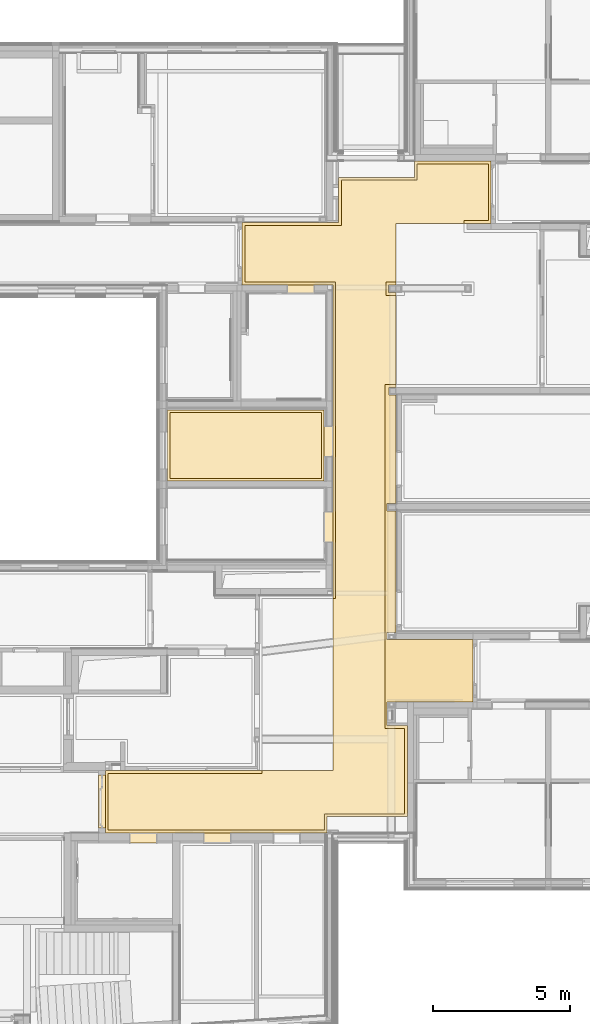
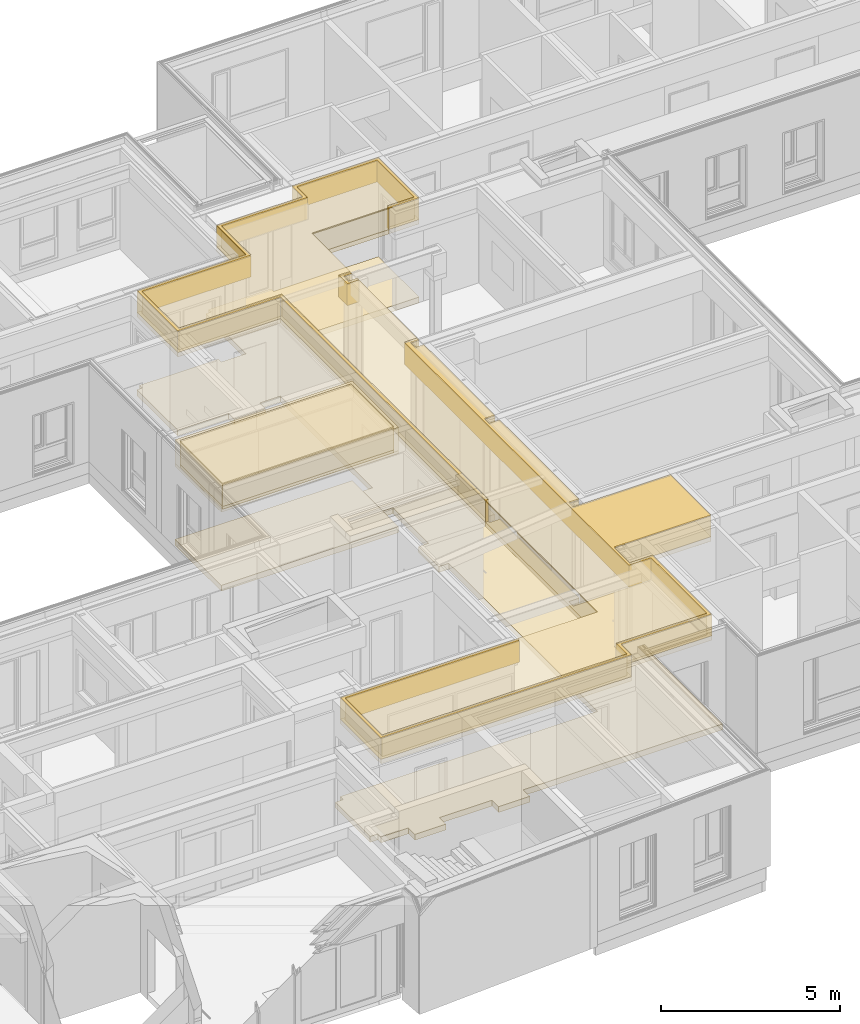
# One storey, part 181 of 207: 18 coverings.
"""IFC4 building model written with IfcOpenShell, lengths in metres."""

from ifc_helpers import new_model, entity, si_unit, converted_unit, derived_unit, frame, frame_2d, origin, origin_with_axes, place, context, subcontext, project, spatial, polyline, rectangle, outline, extrude, material, layer, layer_set, layer_usage, element, save


model = new_model("IFC4")

# Units and contexts
model_context = context("Model", 3, precision=1e-05, world=origin())
body_context = subcontext(model_context, "Body", "Model", "MODEL_VIEW")
ifc_project = project(units=[si_unit("LENGTHUNIT", "METRE"), si_unit("AREAUNIT", "SQUARE_METRE"), si_unit("VOLUMEUNIT", "CUBIC_METRE"), si_unit("MASSUNIT", "GRAM", prefix="KILO"), converted_unit("PLANEANGLEUNIT", "DEGREE", entity("IfcPlaneAngleMeasure", 0.0174532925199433), si_unit("PLANEANGLEUNIT", "RADIAN"), dimensions=[0, 0, 0, 0, 0, 0, 0]), derived_unit("THERMALTRANSMITTANCEUNIT", [(si_unit("POWERUNIT", "WATT"), 1), (si_unit("THERMODYNAMICTEMPERATUREUNIT", "KELVIN"), -1), (si_unit("LENGTHUNIT", "METRE"), -2)]), derived_unit("VOLUMETRICFLOWRATEUNIT", [(si_unit("LENGTHUNIT", "METRE"), 3), (converted_unit("TIMEUNIT", "hour", entity("IfcTimeMeasure", 3600.0), si_unit("TIMEUNIT", "SECOND"), dimensions=[0, 0, 1, 0, 0, 0, 0]), -1), (si_unit("LENGTHUNIT", "METRE"), -1)])], contexts=[model_context])

# Site, building, storey, space
site_placement = place(None, origin())
site = spatial("IfcSite", under=ifc_project, at=site_placement, Name="Psychiatrie Neubau Wunstorf", CompositionType="ELEMENT")
building_placement = place(site_placement, origin())
building = spatial("IfcBuilding", under=site, at=building_placement, Name="Neubau H2 Stationsgebäude", CompositionType="ELEMENT")
storey_placement = place(building_placement, frame((0.0, 0.0, -0.2)))
storey = spatial("IfcBuildingStorey", under=building, at=storey_placement, Name="H2 Ebene 0", CompositionType="ELEMENT", Elevation=-0.2)
space_1_placement = place(storey_placement, frame((59.7893138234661, 0.53600244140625, 0.0)))
space_1 = spatial("IfcSpace", under=storey, at=space_1_placement, Name="WUN-H2-E00-F07", CompositionType="ELEMENT")

# Coverings
ifc_material_1 = material(Name="Ku1")
ifc_layer_1 = layer(ifc_material_1, 0.2)
ifc_layer_set_1 = layer_set([ifc_layer_1])
ifc_layer_usage_1 = layer_usage(ifc_layer_set_1, "AXIS3", "POSITIVE", 0.0)
covering_1_placement = place(space_1_placement, frame((-0.249999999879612, -0.364999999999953, 0.0)))
element("IfcCovering", 1, at=covering_1_placement, inside=space_1, material=ifc_layer_usage_1, Name="PVC Bahnenware Holzoptik", PredefinedType="FLOORING", context=body_context, shape_type="SweptSolid", body=[
    extrude(rectangle(XDim=0.144999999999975, YDim=2.01300094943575, at=frame_2d((1.00650047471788, -0.0724999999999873), x_axis=(0.0, -1.0))), frame((8.9516861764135, 25.0880012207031, 0.0), z_axis=(0.0, 0.0, 1.0), x_axis=(1.0, 0.0, 0.0)), (0.0, 0.0, 1.0), 0.2),
    extrude(rectangle(XDim=0.3215, YDim=1.135, at=frame_2d((0.16075, 0.5675), x_axis=(1.0, 0.0))), frame((8.2566861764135, 14.1189975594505, 0.0), z_axis=(0.0, 0.0, 1.0), x_axis=(1.0, 0.0, 0.0)), (0.0, 0.0, 1.0), 0.2),
    extrude(rectangle(XDim=0.3215, YDim=1.135, at=frame_2d((0.16075, 0.5675), x_axis=(1.0, 0.0))), frame((8.2566861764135, 10.9875692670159, 0.0), z_axis=(0.0, 0.0, 1.0), x_axis=(1.0, 0.0, 0.0)), (0.0, 0.0, 1.0), 0.2),
    extrude(rectangle(XDim=0.156000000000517, YDim=2.55, at=frame_2d((1.275, -0.0780000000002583), x_axis=(0.0, -1.0))), frame((5.4201861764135, 22.8489975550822, 0.0), z_axis=(0.0, 0.0, 1.0), x_axis=(1.0, 0.0, 0.0)), (0.0, 0.0, 1.0), 0.2),
    extrude(rectangle(XDim=0.365, YDim=1.01, at=frame_2d((-0.505, 0.1825), x_axis=(0.0, 1.0))), frame((2.14491174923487, 0.0, 0.0), z_axis=(0.0, 0.0, 1.0), x_axis=(1.0, 0.0, 0.0)), (0.0, 0.0, 1.0), 0.2),
    extrude(rectangle(XDim=0.25, YDim=1.9416311, at=frame_2d((0.125, 0.97081555), x_axis=(1.0, 0.0))), frame((0.0, 0.534992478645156, 0.0), z_axis=(0.0, 0.0, 1.0), x_axis=(1.0, 0.0, 0.0)), (0.0, 0.0, 1.0), 0.2),
    extrude(rectangle(XDim=0.3215, YDim=1.01, at=frame_2d((-0.505, 0.16075), x_axis=(0.0, 1.0))), frame((7.9061861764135, 20.0934957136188, 0.0), z_axis=(0.0, 0.0, 1.0), x_axis=(1.0, 0.0, 0.0)), (0.0, 0.0, 1.0), 0.2),
    extrude(rectangle(XDim=0.365, YDim=1.01, at=frame_2d((-0.505, 0.1825), x_axis=(0.0, 1.0))), frame((4.85491174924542, 0.0, 0.0), z_axis=(0.0, 0.0, 1.0), x_axis=(1.0, 0.0, 0.0)), (0.0, 0.0, 1.0), 0.2),
    extrude(outline(polyline([(8.32818617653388, 20.0499957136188), (8.32818617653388, 2.2814972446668), (0.319314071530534, 2.28162623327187), (0.31927227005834, 2.28156728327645), (0.0, 2.28163151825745), (0.0, 0.0), (11.0461861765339, 0.0), (11.0461861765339, 3.9214975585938), (10.3096811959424, 3.92149755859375), (10.3096811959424, 4.79649755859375), (13.4506861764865, 4.79649755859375), (13.4506861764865, 7.07149755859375), (10.3096811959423, 7.07149737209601), (10.3096811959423, 7.32249737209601), (10.6406861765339, 7.3224975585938), (10.6406861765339, 11.7780570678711), (10.3096861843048, 11.7780570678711), (10.3096861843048, 12.0500570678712), (10.6406861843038, 12.0500570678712), (10.6406861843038, 16.0244975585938), (10.3746800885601, 16.0244975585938), (10.3746800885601, 16.2964975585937), (10.6406861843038, 16.2964975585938), (10.6406886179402, 19.7679955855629), (10.3646941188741, 19.7679955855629), (10.3646941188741, 20.0499926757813), (10.6406861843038, 20.0499926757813), (10.6406861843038, 22.2999975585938), (14.1106861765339, 22.2999975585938), (14.1106861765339, 24.5814975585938), (11.3216861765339, 24.5814975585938), (11.3216861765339, 24.5780012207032), (8.53168617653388, 24.5780012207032), (8.53168617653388, 22.3279975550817), (5.00418617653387, 22.3279975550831), (5.00418617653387, 20.0499955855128), (8.32818617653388, 20.0499957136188)])), frame((0.249999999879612, 0.364999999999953, 0.0), z_axis=(0.0, 0.0, 1.0), x_axis=(1.0, 0.0, 0.0)), (0.0, 0.0, 1.0), 0.2),
])
ifc_material_2 = material()
ifc_layer_2 = layer(ifc_material_2, 0.036)
ifc_layer_set_2 = layer_set([ifc_layer_2])
ifc_layer_usage_2 = layer_usage(ifc_layer_set_2, "AXIS3", "POSITIVE", 0.0)
covering_2_placement = place(space_1_placement, frame((0.0999416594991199, 0.0998389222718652, 3.6)))
element("IfcCovering", 2, at=covering_2_placement, inside=space_1, material=ifc_layer_usage_2, Name="Gipsfaserplatten 2-lagig (BSK)", PredefinedType="CEILING", context=body_context, shape_type="SweptSolid", body=[
    extrude(outline(polyline([(10.5407445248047, 4.3280085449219), (10.164752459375, 4.3280085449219), (10.164752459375, 4.81000563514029), (10.540746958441, 4.81000563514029), (10.540746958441, 8.08150366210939), (10.1247445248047, 8.08150366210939), (10.1247445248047, 20.6565036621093), (10.8462445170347, 20.6565036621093), (10.8462445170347, 23.7790038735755), (7.91074600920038, 23.7790038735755), (7.91074600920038, 24.3781381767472), (5.83406212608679e-05, 24.3781622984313), (0.0, 22.2965208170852), (5.63573702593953, 22.296496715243), (5.63574085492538, 22.1965039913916), (8.22824451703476, 22.1965039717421), (8.22824451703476, 15.9090036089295), (8.32824451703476, 15.9090036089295), (8.32824451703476, 4.3280055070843), (5.00424451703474, 4.32800559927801), (5.00424451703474, 2.25000366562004), (8.53174451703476, 2.25000366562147), (8.53174451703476, 0.6), (11.3107445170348, 0.6), (11.3107445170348, 0.0), (13.9107445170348, 0.0), (13.9107445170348, 2.07800366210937), (13.0307415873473, 2.07800366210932), (13.0307415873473, 2.17800366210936), (10.5407445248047, 2.17800366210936), (10.5407445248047, 4.3280085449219)])), frame((0.0, 24.3781622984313, 0.0), z_axis=(0.0, 0.0, -1.0), x_axis=(1.0, 0.0, 0.0)), (0.0, 0.0, 1.0), 0.036),
])
ifc_material_3 = material(Name="Installationshöhe")
ifc_layer_3 = layer(ifc_material_3, 0.714)
ifc_layer_set_3 = layer_set([ifc_layer_3])
ifc_layer_usage_3 = layer_usage(ifc_layer_set_3, "AXIS3", "POSITIVE", 0.0)
covering_3_placement = place(space_1_placement, frame((0.0999416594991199, 0.0998389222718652, 3.564)))
element("IfcCovering", 3, at=covering_3_placement, inside=space_1, material=ifc_layer_usage_3, Name="Gipsfaserplatten 2-lagig (BSK)", PredefinedType="CEILING", context=body_context, shape_type="SweptSolid", body=[
    extrude(outline(polyline([(10.5407445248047, 4.3280085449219), (10.164752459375, 4.3280085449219), (10.164752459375, 4.81000563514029), (10.540746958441, 4.81000563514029), (10.540746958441, 8.08150366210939), (10.1247445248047, 8.08150366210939), (10.1247445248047, 20.6565036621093), (10.8462445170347, 20.6565036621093), (10.8462445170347, 23.7790038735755), (7.91074600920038, 23.7790038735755), (7.91074600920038, 24.3781381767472), (5.83406212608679e-05, 24.3781622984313), (0.0, 22.2965208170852), (5.63573702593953, 22.296496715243), (5.63574085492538, 22.1965039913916), (8.22824451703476, 22.1965039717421), (8.22824451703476, 15.9090036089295), (8.32824451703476, 15.9090036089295), (8.32824451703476, 4.3280055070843), (5.00424451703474, 4.32800559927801), (5.00424451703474, 2.25000366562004), (8.53174451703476, 2.25000366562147), (8.53174451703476, 0.6), (11.3107445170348, 0.6), (11.3107445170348, 0.0), (13.9107445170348, 0.0), (13.9107445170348, 2.07800366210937), (13.0307415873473, 2.07800366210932), (13.0307415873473, 2.17800366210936), (10.5407445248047, 2.17800366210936), (10.5407445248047, 4.3280085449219)])), frame((0.0, 24.3781622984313, 0.0), z_axis=(0.0, 0.0, -1.0), x_axis=(1.0, 0.0, 0.0)), (0.0, 0.0, 1.0), 0.714),
])
ifc_material_4 = material(Name="Aa")
ifc_layer_4 = layer(ifc_material_4, 0.15)
ifc_layer_set_4 = layer_set([ifc_layer_4])
ifc_layer_usage_4 = layer_usage(ifc_layer_set_4, "AXIS3", "POSITIVE", 0.0)
covering_4_placement = place(space_1_placement, frame((0.0999416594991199, 0.0998389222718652, 2.85)))
element("IfcCovering", 4, at=covering_4_placement, inside=space_1, material=ifc_layer_usage_4, Name="Gipsfaserplatten 2-lagig (BSK)", PredefinedType="CEILING", context=body_context, shape_type="SweptSolid", body=[
    extrude(outline(polyline([(10.5407445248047, 4.3280085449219), (10.164752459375, 4.3280085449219), (10.164752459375, 4.81000563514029), (10.540746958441, 4.81000563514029), (10.540746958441, 8.08150366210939), (10.1247445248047, 8.08150366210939), (10.1247445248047, 20.6565036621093), (10.8462445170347, 20.6565036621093), (10.8462445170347, 23.7790038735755), (7.91074600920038, 23.7790038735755), (7.91074600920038, 24.3781381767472), (5.83406212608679e-05, 24.3781622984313), (0.0, 22.2965208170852), (5.63573702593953, 22.296496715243), (5.63574085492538, 22.1965039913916), (8.22824451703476, 22.1965039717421), (8.22824451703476, 15.9090036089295), (8.32824451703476, 15.9090036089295), (8.32824451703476, 4.3280055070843), (5.00424451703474, 4.32800559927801), (5.00424451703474, 2.25000366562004), (8.53174451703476, 2.25000366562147), (8.53174451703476, 0.6), (11.3107445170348, 0.6), (11.3107445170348, 0.0), (13.9107445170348, 0.0), (13.9107445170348, 2.07800366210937), (13.0307415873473, 2.07800366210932), (13.0307415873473, 2.17800366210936), (10.5407445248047, 2.17800366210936), (10.5407445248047, 4.3280085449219)])), frame((0.0, 24.3781622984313, 0.0), z_axis=(0.0, 0.0, -1.0), x_axis=(1.0, 0.0, 0.0)), (0.0, 0.0, 1.0), 0.15),
])
ifc_material_5 = material(Name="D1")
ifc_layer_5 = layer(ifc_material_5, 0.001)
ifc_layer_set_5 = layer_set([ifc_layer_5])
ifc_layer_usage_5 = layer_usage(ifc_layer_set_5, "AXIS3", "POSITIVE", 0.0)
covering_5_placement = place(space_1_placement, frame((0.0999416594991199, 0.0998389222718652, 2.7)))
element("IfcCovering", 5, at=covering_5_placement, inside=space_1, material=ifc_layer_usage_5, Name="Gipsfaserplatten 2-lagig (BSK)", PredefinedType="CEILING", context=body_context, shape_type="SweptSolid", body=[
    extrude(outline(polyline([(10.5407445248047, 4.3280085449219), (10.164752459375, 4.3280085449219), (10.164752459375, 4.81000563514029), (10.540746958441, 4.81000563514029), (10.540746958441, 8.08150366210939), (10.1247445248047, 8.08150366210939), (10.1247445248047, 20.6565036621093), (10.8462445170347, 20.6565036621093), (10.8462445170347, 23.7790038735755), (7.91074600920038, 23.7790038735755), (7.91074600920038, 24.3781381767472), (5.83406212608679e-05, 24.3781622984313), (0.0, 22.2965208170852), (5.63573702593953, 22.296496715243), (5.63574085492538, 22.1965039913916), (8.22824451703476, 22.1965039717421), (8.22824451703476, 15.9090036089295), (8.32824451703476, 15.9090036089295), (8.32824451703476, 4.3280055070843), (5.00424451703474, 4.32800559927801), (5.00424451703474, 2.25000366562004), (8.53174451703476, 2.25000366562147), (8.53174451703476, 0.6), (11.3107445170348, 0.6), (11.3107445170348, 0.0), (13.9107445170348, 0.0), (13.9107445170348, 2.07800366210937), (13.0307415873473, 2.07800366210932), (13.0307415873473, 2.17800366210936), (10.5407445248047, 2.17800366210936), (10.5407445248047, 4.3280085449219)])), frame((0.0, 24.3781622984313, 0.0), z_axis=(0.0, 0.0, -1.0), x_axis=(1.0, 0.0, 0.0)), (0.0, 0.0, 1.0), 0.001),
])
ifc_material_6 = material()
ifc_layer_6 = layer(ifc_material_6, 0.036)
ifc_layer_set_6 = layer_set([ifc_layer_6])
ifc_layer_usage_6 = layer_usage(ifc_layer_set_6, "AXIS3", "POSITIVE", 0.0)
covering_6_placement = place(space_1_placement, frame((0.0, 0.0, 3.6)))
element("IfcCovering", 6, at=covering_6_placement, inside=space_1, material=ifc_layer_usage_6, Name="Gipsfaserplatten 2-lagig (BSK)", PredefinedType="CEILING", context=body_context, shape_type="SweptSolid", body=[
    extrude(outline(polyline([(0.0999416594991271, 16.2964949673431), (0.100057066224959, 16.2964949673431), (0.100000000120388, 16.2966586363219), (8.01068766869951, 16.2966345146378), (8.01068766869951, 15.6975002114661), (10.9461861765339, 15.6975002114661), (10.9461861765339, 12.575), (10.2246861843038, 12.575), (10.2246861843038, 0.0), (10.6406886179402, 0.0), (10.6406886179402, 0.1), (10.3746800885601, 0.100000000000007), (10.3746800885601, 0.372000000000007), (10.6406861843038, 0.372), (10.6406861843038, 4.34644049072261), (10.3096861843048, 4.34644049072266), (10.3096861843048, 4.61844049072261), (10.6406861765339, 4.61844049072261), (10.6406861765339, 9.07399999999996), (10.3096811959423, 9.07400018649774), (10.3096811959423, 9.32500018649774), (13.4506861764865, 9.32500000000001), (13.4506861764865, 11.6), (10.3096811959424, 11.6), (10.3096811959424, 12.475), (11.0461861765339, 12.475), (11.0461861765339, 15.7975003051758), (8.11068617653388, 15.7975003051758), (8.11068617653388, 16.3964975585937), (0.0, 16.3964975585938), (0.0, 14.1148660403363), (5.73568251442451, 14.1150003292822), (5.73568251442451, 14.2150072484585), (0.0999416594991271, 14.2150072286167), (0.0999416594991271, 16.2964949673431)])), frame((0.0, 16.3964975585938, 0.0), z_axis=(0.0, 0.0, -1.0), x_axis=(1.0, 0.0, 0.0)), (0.0, 0.0, 1.0), 0.036),
    extrude(outline(polyline([(9.10650000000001, 0.0), (9.10650000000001, 2.28150000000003), (8.1264970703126, 2.28149999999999), (8.1264970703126, 2.18149999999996), (9.00650000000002, 2.18150000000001), (9.00650000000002, 0.103496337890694), (6.40650000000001, 0.10349633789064), (6.40650000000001, 0.70349633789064), (3.62750000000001, 0.70349633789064), (3.62750000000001, 2.3535000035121), (0.1, 2.35350000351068), (0.1, 4.43150193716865), (3.42400000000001, 4.43150184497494), (3.42400000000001, 16.0124999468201), (3.32400000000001, 16.0124999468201), (3.32400000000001, 4.53150184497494), (0.0, 4.53150197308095), (0.0, 2.25350000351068), (3.52750000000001, 2.2535000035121), (3.52750000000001, 0.60349633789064), (6.30650000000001, 0.60349633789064), (6.30650000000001, 0.00349633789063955), (6.31750000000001, 0.00349633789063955), (6.31750000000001, 0.0), (9.10650000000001, 0.0)])), frame((5.00418617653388, 24.5814975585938, 0.0), z_axis=(0.0, 0.0, -1.0), x_axis=(1.0, 0.0, 0.0)), (0.0, 0.0, 1.0), 0.036),
    extrude(outline(polyline([(0.375994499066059, 0.482000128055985), (0.0, 0.482000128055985), (0.0, 0.0), (0.375992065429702, 0.0), (0.375992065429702, 0.1000030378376), (0.1, 0.1000030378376), (0.1, 0.382000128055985), (0.375994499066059, 0.382000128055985), (0.375994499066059, 0.482000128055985)])), frame((10.2646941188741, 20.1499957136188, 0.0), z_axis=(0.0, 0.0, -1.0), x_axis=(1.0, 0.0, 0.0)), (0.0, 0.0, 1.0), 0.036),
])
ifc_material_7 = material(Name="Installationshöhe")
ifc_layer_7 = layer(ifc_material_7, 0.714)
ifc_layer_set_7 = layer_set([ifc_layer_7])
ifc_layer_usage_7 = layer_usage(ifc_layer_set_7, "AXIS3", "POSITIVE", 0.0)
covering_7_placement = place(space_1_placement, frame((0.0, 0.0, 3.564)))
element("IfcCovering", 7, at=covering_7_placement, inside=space_1, material=ifc_layer_usage_7, Name="Gipsfaserplatten 2-lagig (BSK)", PredefinedType="CEILING", context=body_context, shape_type="SweptSolid", body=[
    extrude(outline(polyline([(0.0999416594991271, 16.2964949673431), (0.100057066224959, 16.2964949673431), (0.100000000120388, 16.2966586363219), (8.01068766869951, 16.2966345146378), (8.01068766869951, 15.6975002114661), (10.9461861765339, 15.6975002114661), (10.9461861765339, 12.575), (10.2246861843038, 12.575), (10.2246861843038, 0.0), (10.6406886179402, 0.0), (10.6406886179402, 0.1), (10.3746800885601, 0.100000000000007), (10.3746800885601, 0.372000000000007), (10.6406861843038, 0.372), (10.6406861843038, 4.34644049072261), (10.3096861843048, 4.34644049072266), (10.3096861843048, 4.61844049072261), (10.6406861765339, 4.61844049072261), (10.6406861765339, 9.07399999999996), (10.3096811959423, 9.07400018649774), (10.3096811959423, 9.32500018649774), (13.4506861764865, 9.32500000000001), (13.4506861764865, 11.6), (10.3096811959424, 11.6), (10.3096811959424, 12.475), (11.0461861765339, 12.475), (11.0461861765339, 15.7975003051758), (8.11068617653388, 15.7975003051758), (8.11068617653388, 16.3964975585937), (0.0, 16.3964975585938), (0.0, 14.1148660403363), (5.73568251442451, 14.1150003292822), (5.73568251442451, 14.2150072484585), (0.0999416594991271, 14.2150072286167), (0.0999416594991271, 16.2964949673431)])), frame((0.0, 16.3964975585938, 0.0), z_axis=(0.0, 0.0, -1.0), x_axis=(1.0, 0.0, 0.0)), (0.0, 0.0, 1.0), 0.714),
    extrude(outline(polyline([(9.10650000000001, 0.0), (9.10650000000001, 2.28150000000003), (8.1264970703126, 2.28149999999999), (8.1264970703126, 2.18149999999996), (9.00650000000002, 2.18150000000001), (9.00650000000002, 0.103496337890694), (6.40650000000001, 0.10349633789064), (6.40650000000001, 0.70349633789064), (3.62750000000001, 0.70349633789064), (3.62750000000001, 2.3535000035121), (0.1, 2.35350000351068), (0.1, 4.43150193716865), (3.42400000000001, 4.43150184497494), (3.42400000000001, 16.0124999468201), (3.32400000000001, 16.0124999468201), (3.32400000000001, 4.53150184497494), (0.0, 4.53150197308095), (0.0, 2.25350000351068), (3.52750000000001, 2.2535000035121), (3.52750000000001, 0.60349633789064), (6.30650000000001, 0.60349633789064), (6.30650000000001, 0.00349633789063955), (6.31750000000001, 0.00349633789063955), (6.31750000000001, 0.0), (9.10650000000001, 0.0)])), frame((5.00418617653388, 24.5814975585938, 0.0), z_axis=(0.0, 0.0, -1.0), x_axis=(1.0, 0.0, 0.0)), (0.0, 0.0, 1.0), 0.714),
    extrude(outline(polyline([(0.375994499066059, 0.482000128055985), (0.0, 0.482000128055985), (0.0, 0.0), (0.375992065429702, 0.0), (0.375992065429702, 0.1000030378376), (0.1, 0.1000030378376), (0.1, 0.382000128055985), (0.375994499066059, 0.382000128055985), (0.375994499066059, 0.482000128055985)])), frame((10.2646941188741, 20.1499957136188, 0.0), z_axis=(0.0, 0.0, -1.0), x_axis=(1.0, 0.0, 0.0)), (0.0, 0.0, 1.0), 0.714),
])
ifc_material_8 = material(Name="A1")
ifc_layer_8 = layer(ifc_material_8, 0.15)
ifc_layer_set_8 = layer_set([ifc_layer_8])
ifc_layer_usage_8 = layer_usage(ifc_layer_set_8, "AXIS3", "POSITIVE", 0.0)
covering_8_placement = place(space_1_placement, frame((0.0, 0.0, 2.85)))
element("IfcCovering", 8, at=covering_8_placement, inside=space_1, material=ifc_layer_usage_8, Name="Gipsfaserplatten 2-lagig (BSK)", PredefinedType="CEILING", context=body_context, shape_type="SweptSolid", body=[
    extrude(outline(polyline([(0.0999416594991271, 16.2964949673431), (0.100057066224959, 16.2964949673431), (0.100000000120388, 16.2966586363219), (8.01068766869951, 16.2966345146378), (8.01068766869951, 15.6975002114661), (10.9461861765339, 15.6975002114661), (10.9461861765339, 12.575), (10.2246861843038, 12.575), (10.2246861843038, 0.0), (10.6406886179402, 0.0), (10.6406886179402, 0.1), (10.3746800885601, 0.100000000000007), (10.3746800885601, 0.372000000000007), (10.6406861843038, 0.372), (10.6406861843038, 4.34644049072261), (10.3096861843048, 4.34644049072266), (10.3096861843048, 4.61844049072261), (10.6406861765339, 4.61844049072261), (10.6406861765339, 9.07399999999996), (10.3096811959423, 9.07400018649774), (10.3096811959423, 9.32500018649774), (13.4506861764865, 9.32500000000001), (13.4506861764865, 11.6), (10.3096811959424, 11.6), (10.3096811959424, 12.475), (11.0461861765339, 12.475), (11.0461861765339, 15.7975003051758), (8.11068617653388, 15.7975003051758), (8.11068617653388, 16.3964975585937), (0.0, 16.3964975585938), (0.0, 14.1148660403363), (5.73568251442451, 14.1150003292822), (5.73568251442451, 14.2150072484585), (0.0999416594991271, 14.2150072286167), (0.0999416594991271, 16.2964949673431)])), frame((0.0, 16.3964975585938, 0.0), z_axis=(0.0, 0.0, -1.0), x_axis=(1.0, 0.0, 0.0)), (0.0, 0.0, 1.0), 0.15),
    extrude(outline(polyline([(9.10650000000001, 0.0), (9.10650000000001, 2.28150000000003), (8.1264970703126, 2.28149999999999), (8.1264970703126, 2.18149999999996), (9.00650000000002, 2.18150000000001), (9.00650000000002, 0.103496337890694), (6.40650000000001, 0.10349633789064), (6.40650000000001, 0.70349633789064), (3.62750000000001, 0.70349633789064), (3.62750000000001, 2.3535000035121), (0.1, 2.35350000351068), (0.1, 4.43150193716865), (3.42400000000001, 4.43150184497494), (3.42400000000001, 16.0124999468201), (3.32400000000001, 16.0124999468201), (3.32400000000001, 4.53150184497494), (0.0, 4.53150197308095), (0.0, 2.25350000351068), (3.52750000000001, 2.2535000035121), (3.52750000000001, 0.60349633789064), (6.30650000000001, 0.60349633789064), (6.30650000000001, 0.00349633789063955), (6.31750000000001, 0.00349633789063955), (6.31750000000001, 0.0), (9.10650000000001, 0.0)])), frame((5.00418617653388, 24.5814975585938, 0.0), z_axis=(0.0, 0.0, -1.0), x_axis=(1.0, 0.0, 0.0)), (0.0, 0.0, 1.0), 0.15),
    extrude(outline(polyline([(0.375994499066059, 0.482000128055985), (0.0, 0.482000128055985), (0.0, 0.0), (0.375992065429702, 0.0), (0.375992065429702, 0.1000030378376), (0.1, 0.1000030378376), (0.1, 0.382000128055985), (0.375994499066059, 0.382000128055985), (0.375994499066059, 0.482000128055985)])), frame((10.2646941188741, 20.1499957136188, 0.0), z_axis=(0.0, 0.0, -1.0), x_axis=(1.0, 0.0, 0.0)), (0.0, 0.0, 1.0), 0.15),
])
ifc_material_9 = material(Name="D1")
ifc_layer_9 = layer(ifc_material_9, 0.001)
ifc_layer_set_9 = layer_set([ifc_layer_9])
ifc_layer_usage_9 = layer_usage(ifc_layer_set_9, "AXIS3", "POSITIVE", 0.0)
covering_9_placement = place(space_1_placement, frame((0.0, 0.0, 2.7)))
element("IfcCovering", 9, at=covering_9_placement, inside=space_1, material=ifc_layer_usage_9, Name="Gipsfaserplatten 2-lagig (BSK)", PredefinedType="CEILING", context=body_context, shape_type="SweptSolid", body=[
    extrude(outline(polyline([(0.0999416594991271, 16.2964949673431), (0.100057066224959, 16.2964949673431), (0.100000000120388, 16.2966586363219), (8.01068766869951, 16.2966345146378), (8.01068766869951, 15.6975002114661), (10.9461861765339, 15.6975002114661), (10.9461861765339, 12.575), (10.2246861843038, 12.575), (10.2246861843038, 0.0), (10.6406886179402, 0.0), (10.6406886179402, 0.1), (10.3746800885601, 0.100000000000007), (10.3746800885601, 0.372000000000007), (10.6406861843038, 0.372), (10.6406861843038, 4.34644049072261), (10.3096861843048, 4.34644049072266), (10.3096861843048, 4.61844049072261), (10.6406861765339, 4.61844049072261), (10.6406861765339, 9.07399999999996), (10.3096811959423, 9.07400018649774), (10.3096811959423, 9.32500018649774), (13.4506861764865, 9.32500000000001), (13.4506861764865, 11.6), (10.3096811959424, 11.6), (10.3096811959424, 12.475), (11.0461861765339, 12.475), (11.0461861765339, 15.7975003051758), (8.11068617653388, 15.7975003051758), (8.11068617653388, 16.3964975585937), (0.0, 16.3964975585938), (0.0, 14.1148660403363), (5.73568251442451, 14.1150003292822), (5.73568251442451, 14.2150072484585), (0.0999416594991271, 14.2150072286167), (0.0999416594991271, 16.2964949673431)])), frame((0.0, 16.3964975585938, 0.0), z_axis=(0.0, 0.0, -1.0), x_axis=(1.0, 0.0, 0.0)), (0.0, 0.0, 1.0), 0.001),
    extrude(outline(polyline([(9.10650000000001, 0.0), (9.10650000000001, 2.28150000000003), (8.1264970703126, 2.28149999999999), (8.1264970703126, 2.18149999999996), (9.00650000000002, 2.18150000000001), (9.00650000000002, 0.103496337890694), (6.40650000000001, 0.10349633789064), (6.40650000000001, 0.70349633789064), (3.62750000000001, 0.70349633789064), (3.62750000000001, 2.3535000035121), (0.1, 2.35350000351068), (0.1, 4.43150193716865), (3.42400000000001, 4.43150184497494), (3.42400000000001, 16.0124999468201), (3.32400000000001, 16.0124999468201), (3.32400000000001, 4.53150184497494), (0.0, 4.53150197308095), (0.0, 2.25350000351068), (3.52750000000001, 2.2535000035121), (3.52750000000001, 0.60349633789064), (6.30650000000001, 0.60349633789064), (6.30650000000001, 0.00349633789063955), (6.31750000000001, 0.00349633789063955), (6.31750000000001, 0.0), (9.10650000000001, 0.0)])), frame((5.00418617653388, 24.5814975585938, 0.0), z_axis=(0.0, 0.0, -1.0), x_axis=(1.0, 0.0, 0.0)), (0.0, 0.0, 1.0), 0.001),
    extrude(outline(polyline([(0.375994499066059, 0.482000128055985), (0.0, 0.482000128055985), (0.0, 0.0), (0.375992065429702, 0.0), (0.375992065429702, 0.1000030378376), (0.1, 0.1000030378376), (0.1, 0.382000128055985), (0.375994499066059, 0.382000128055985), (0.375994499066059, 0.482000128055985)])), frame((10.2646941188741, 20.1499957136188, 0.0), z_axis=(0.0, 0.0, -1.0), x_axis=(1.0, 0.0, 0.0)), (0.0, 0.0, 1.0), 0.001),
])

# Space
space_2_placement = place(storey_placement, frame((62.0610000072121, 13.4094966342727, 0.0)))
space_2 = spatial("IfcSpace", under=storey, at=space_2_placement, Name="WUN-H2-E00-066", CompositionType="ELEMENT")

# Coverings
ifc_material_10 = material(Name="Ku1")
ifc_layer_10 = layer(ifc_material_10, 0.2)
ifc_layer_set_10 = layer_set([ifc_layer_10])
ifc_layer_usage_10 = layer_usage(ifc_layer_set_10, "AXIS3", "POSITIVE", 0.0)
covering_10_placement = place(space_2_placement, origin())
element("IfcCovering", 10, at=covering_10_placement, inside=space_2, material=ifc_layer_usage_10, Name="PVC Bahnenware Holzoptik", PredefinedType="FLOORING", context=body_context, shape_type="SweptSolid", body=[
    extrude(rectangle(XDim=5.73499999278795, YDim=2.60450336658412, at=frame_2d((2.86749999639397, 1.30225168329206), x_axis=(1.0, -3.17173392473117e-16))), origin_with_axes(), (0.0, 0.0, 1.0), 0.2),
])
ifc_material_11 = material()
ifc_layer_11 = layer(ifc_material_11, 0.036)
ifc_layer_set_11 = layer_set([ifc_layer_11])
ifc_layer_usage_11 = layer_usage(ifc_layer_set_11, "AXIS3", "POSITIVE", 0.0)
covering_11_placement = place(space_2_placement, frame((0.0999999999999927, 0.0999999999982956, 3.6)))
element("IfcCovering", 11, at=covering_11_placement, inside=space_2, material=ifc_layer_usage_11, Name="Gipsfaserplatten 2-lagig (BSK)", PredefinedType="CEILING", context=body_context, shape_type="SweptSolid", body=[
    extrude(rectangle(XDim=2.40450336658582, YDim=5.53499999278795, at=frame_2d((2.76749999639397, -1.20225168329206), x_axis=(0.0, -1.0))), frame((0.0, 0.0, 0.0), z_axis=(0.0, 0.0, -1.0), x_axis=(1.0, 0.0, 0.0)), (0.0, 0.0, 1.0), 0.036),
])
ifc_material_12 = material(Name="Installationshöhe")
ifc_layer_12 = layer(ifc_material_12, 0.764)
ifc_layer_set_12 = layer_set([ifc_layer_12])
ifc_layer_usage_12 = layer_usage(ifc_layer_set_12, "AXIS3", "POSITIVE", 0.0)
covering_12_placement = place(space_2_placement, frame((0.0999999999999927, 0.0999999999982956, 3.564)))
element("IfcCovering", 12, at=covering_12_placement, inside=space_2, material=ifc_layer_usage_12, Name="Gipsfaserplatten 2-lagig (BSK)", PredefinedType="CEILING", context=body_context, shape_type="SweptSolid", body=[
    extrude(rectangle(XDim=2.40450336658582, YDim=5.53499999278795, at=frame_2d((2.76749999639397, -1.20225168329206), x_axis=(0.0, -1.0))), frame((0.0, 0.0, 0.0), z_axis=(0.0, 0.0, -1.0), x_axis=(1.0, 0.0, 0.0)), (0.0, 0.0, 1.0), 0.764),
])
ifc_material_13 = material(Name="H7b")
ifc_layer_13 = layer(ifc_material_13, 0.1)
ifc_layer_set_13 = layer_set([ifc_layer_13])
ifc_layer_usage_13 = layer_usage(ifc_layer_set_13, "AXIS3", "POSITIVE", 0.0)
covering_13_placement = place(space_2_placement, frame((0.0999999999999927, 0.0999999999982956, 2.8)))
element("IfcCovering", 13, at=covering_13_placement, inside=space_2, material=ifc_layer_usage_13, Name="Kühldecke gelocht", PredefinedType="CEILING", context=body_context, shape_type="SweptSolid", body=[
    extrude(rectangle(XDim=2.40450336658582, YDim=5.53499999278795, at=frame_2d((2.76749999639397, -1.20225168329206), x_axis=(0.0, -1.0))), frame((0.0, 0.0, 0.0), z_axis=(0.0, 0.0, -1.0), x_axis=(1.0, 0.0, 0.0)), (0.0, 0.0, 1.0), 0.1),
])
ifc_material_14 = material(Name="D1")
ifc_layer_14 = layer(ifc_material_14, 0.001)
ifc_layer_set_14 = layer_set([ifc_layer_14])
ifc_layer_usage_14 = layer_usage(ifc_layer_set_14, "AXIS3", "POSITIVE", 0.0)
covering_14_placement = place(space_2_placement, frame((0.0999999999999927, 0.0999999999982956, 2.7)))
element("IfcCovering", 14, at=covering_14_placement, inside=space_2, material=ifc_layer_usage_14, Name="Gipsfaserplatten 2-lagig (BSK)", PredefinedType="CEILING", context=body_context, shape_type="SweptSolid", body=[
    extrude(rectangle(XDim=2.40450336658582, YDim=5.53499999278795, at=frame_2d((2.76749999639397, -1.20225168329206), x_axis=(0.0, -1.0))), frame((0.0, 0.0, 0.0), z_axis=(0.0, 0.0, -1.0), x_axis=(1.0, 0.0, 0.0)), (0.0, 0.0, 1.0), 0.001),
])
ifc_material_15 = material()
ifc_layer_15 = layer(ifc_material_15, 0.036)
ifc_layer_set_15 = layer_set([ifc_layer_15])
ifc_layer_usage_15 = layer_usage(ifc_layer_set_15, "AXIS3", "POSITIVE", 0.0)
covering_15_placement = place(space_2_placement, frame((1.86101380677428e-07, 0.0, 3.6)))
element("IfcCovering", 15, at=covering_15_placement, inside=space_2, material=ifc_layer_usage_15, Name="Gipsfaserplatten 2-lagig (BSK)", PredefinedType="CEILING", context=body_context, shape_type="SweptSolid", body=[
    extrude(rectangle(XDim=2.60450336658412, YDim=5.73499980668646, at=frame_2d((2.86749990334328, -1.30225168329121), x_axis=(3.91104914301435e-14, -1.0))), frame((0.0, 0.0, 0.0), z_axis=(0.0, 0.0, -1.0), x_axis=(1.0, 0.0, 0.0)), (0.0, 0.0, 1.0), 0.036),
])
ifc_material_16 = material(Name="Installationshöhe")
ifc_layer_16 = layer(ifc_material_16, 0.764)
ifc_layer_set_16 = layer_set([ifc_layer_16])
ifc_layer_usage_16 = layer_usage(ifc_layer_set_16, "AXIS3", "POSITIVE", 0.0)
covering_16_placement = place(space_2_placement, frame((1.86101380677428e-07, 0.0, 3.564)))
element("IfcCovering", 16, at=covering_16_placement, inside=space_2, material=ifc_layer_usage_16, Name="Gipsfaserplatten 2-lagig (BSK)", PredefinedType="CEILING", context=body_context, shape_type="SweptSolid", body=[
    extrude(rectangle(XDim=2.60450336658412, YDim=5.73499980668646, at=frame_2d((2.86749990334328, -1.30225168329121), x_axis=(3.91104914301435e-14, -1.0))), frame((0.0, 0.0, 0.0), z_axis=(0.0, 0.0, -1.0), x_axis=(1.0, 0.0, 0.0)), (0.0, 0.0, 1.0), 0.764),
])
ifc_material_17 = material(Name="H7a")
ifc_layer_17 = layer(ifc_material_17, 0.1)
ifc_layer_set_17 = layer_set([ifc_layer_17])
ifc_layer_usage_17 = layer_usage(ifc_layer_set_17, "AXIS3", "POSITIVE", 0.0)
covering_17_placement = place(space_2_placement, frame((1.86101380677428e-07, 0.0, 2.8)))
element("IfcCovering", 17, at=covering_17_placement, inside=space_2, material=ifc_layer_usage_17, Name="Kühldecke glatt", PredefinedType="CEILING", context=body_context, shape_type="SweptSolid", body=[
    extrude(rectangle(XDim=2.60450336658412, YDim=5.73499980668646, at=frame_2d((2.86749990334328, -1.30225168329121), x_axis=(3.91104914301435e-14, -1.0))), frame((0.0, 0.0, 0.0), z_axis=(0.0, 0.0, -1.0), x_axis=(1.0, 0.0, 0.0)), (0.0, 0.0, 1.0), 0.1),
])
ifc_material_18 = material(Name="D1")
ifc_layer_18 = layer(ifc_material_18, 0.001)
ifc_layer_set_18 = layer_set([ifc_layer_18])
ifc_layer_usage_18 = layer_usage(ifc_layer_set_18, "AXIS3", "POSITIVE", 0.0)
covering_18_placement = place(space_2_placement, frame((1.86101380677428e-07, 0.0, 2.7)))
element("IfcCovering", 18, at=covering_18_placement, inside=space_2, material=ifc_layer_usage_18, Name="Gipsfaserplatten 2-lagig (BSK)", PredefinedType="CEILING", context=body_context, shape_type="SweptSolid", body=[
    extrude(rectangle(XDim=2.60450336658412, YDim=5.73499980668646, at=frame_2d((2.86749990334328, -1.30225168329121), x_axis=(3.91104914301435e-14, -1.0))), frame((0.0, 0.0, 0.0), z_axis=(0.0, 0.0, -1.0), x_axis=(1.0, 0.0, 0.0)), (0.0, 0.0, 1.0), 0.001),
])

save(model, "model.ifc")
